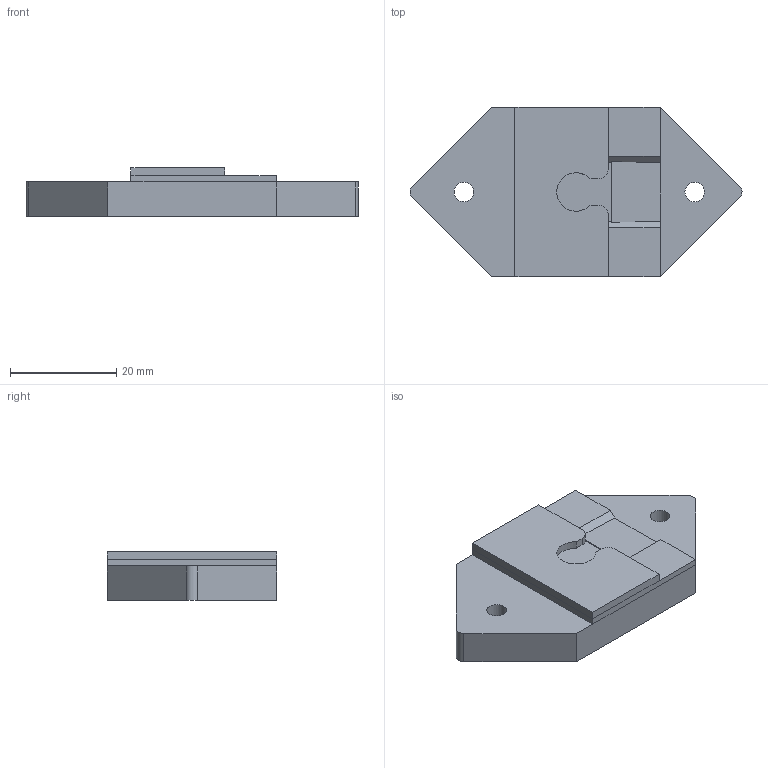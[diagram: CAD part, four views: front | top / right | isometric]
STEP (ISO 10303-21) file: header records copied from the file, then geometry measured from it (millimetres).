
FILE_DESCRIPTION(('FreeCAD Model'),'2;1');
FILE_NAME('Open CASCADE Shape Model','2025-10-05T22:37:30',(''),(''), 'Open CASCADE STEP processor 7.8','FreeCAD','Unknown');
FILE_SCHEMA(('AUTOMOTIVE_DESIGN { 1 0 10303 214 1 1 1 1 }'));
Length unit declared in the file: millimetre
Products named in the file (1): Retaining ramp
Bounding box: 62.57 x 32 x 9.2 mm (x, y, z)
Volume: 11302.7 mm3; surface area: 4679.8 mm2
Topology: 1 solids, 1 shells, 40 faces, 100 edges, 62 vertices
Faces by surface type: plane 32, cylinder 7, revolution 1
Full cylindrical faces by diameter (mm): 3.7 x2
Entity records: 1203 total; most frequent: CARTESIAN_POINT 204, ORIENTED_EDGE 200, DIRECTION 198, EDGE_CURVE 100, LINE 85, VECTOR 85, VERTEX_POINT 62, AXIS2_PLACEMENT_3D 56
